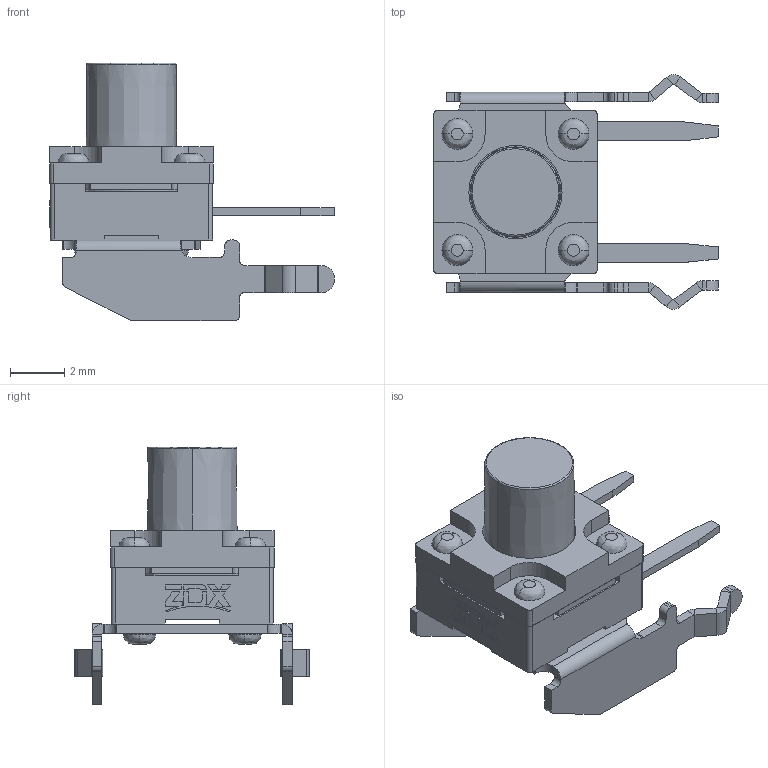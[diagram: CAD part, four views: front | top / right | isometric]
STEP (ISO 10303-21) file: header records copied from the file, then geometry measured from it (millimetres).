
FILE_DESCRIPTION((''),'2;1');
FILE_NAME('ASM0015_ASM','2024-01-04T',('WYH'),(''),'PRO/ENGINEER BY PARAMETRIC TECHNOLOGY CORPORATION, 2013040','PRO/ENGINEER BY PARAMETRIC TECHNOLOGY CORPORATION, 2013040','');
FILE_SCHEMA(('CONFIG_CONTROL_DESIGN'));
Length unit declared in the file: millimetre
Products named in the file (1): ASM0015_ASM
Bounding box: 10.53 x 8.68 x 9.55 mm (x, y, z)
Volume: 159.8 mm3; surface area: 516 mm2
Topology: 1 solids, 19 shells, 546 faces, 1343 edges, 851 vertices
Faces by surface type: plane 301, cylinder 190, torus 24, bspline 20, cone 8, sphere 3
Entity records: 16709 total; most frequent: CARTESIAN_POINT 3448, DIRECTION 2855, ORIENTED_EDGE 2686, EDGE_CURVE 1343, AXIS2_PLACEMENT_3D 1010, VERTEX_POINT 851, VECTOR 835, LINE 835
